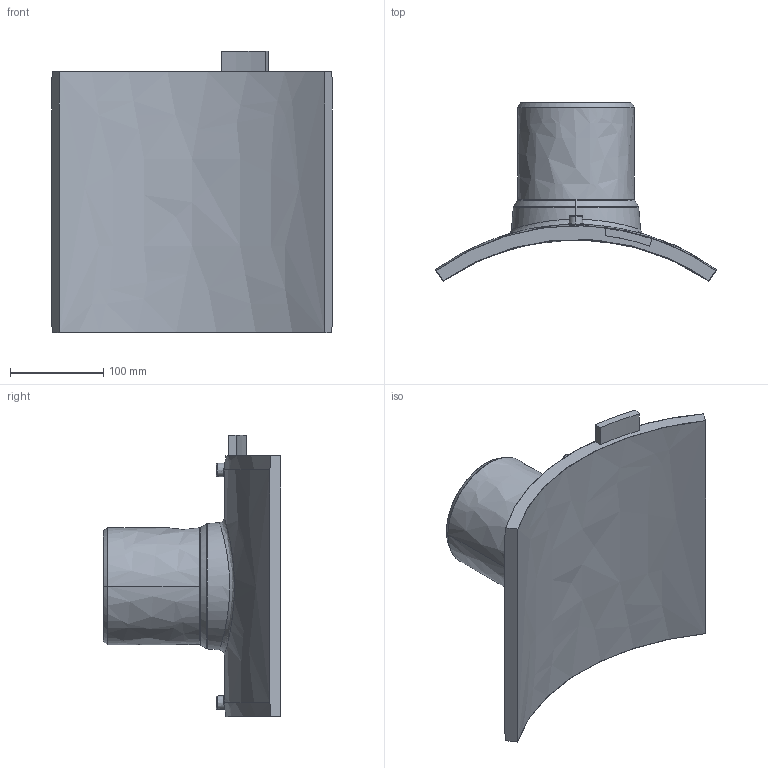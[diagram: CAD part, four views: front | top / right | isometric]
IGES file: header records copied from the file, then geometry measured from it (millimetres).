
Start section:  PTC IGES file: sa-uni_d500_125_01.igs
Global section: file name: sa-uni_d500_125_01.igs; native system: Pro/ENGINEER by Parametric Technology Corporation; preprocessor: 2011490; author: MikulicP; organization: Unknown; date: 20170206.150832; units: millimetre
Bounding box: 300.53 x 190.32 x 301 mm (x, y, z)
Surface area: 295792.8 mm2 (no closed solid volume)
Topology: 0 solids, 0 shells, 200 faces, 984 edges, 984 vertices
Faces by surface type: bspline 200
